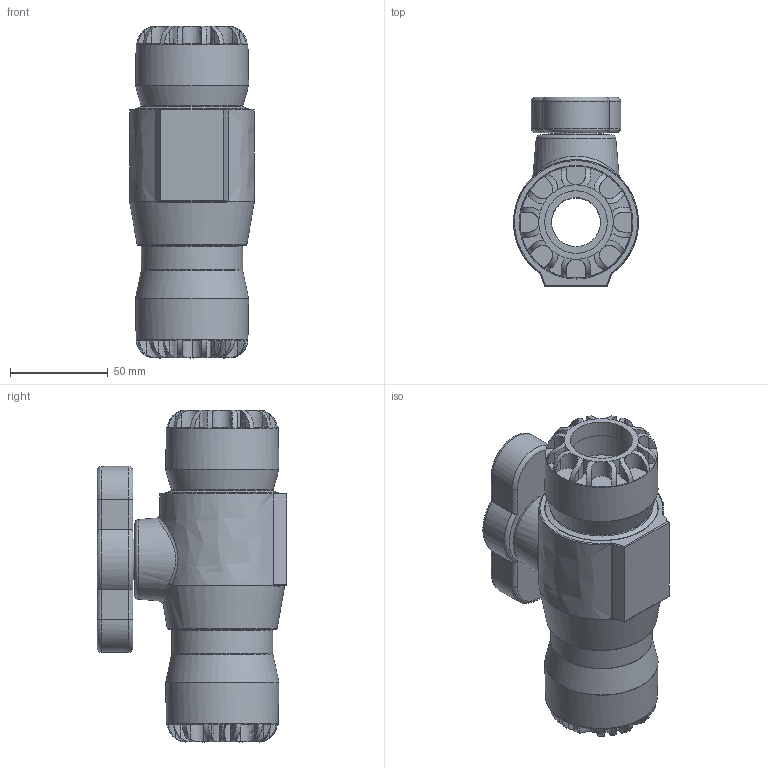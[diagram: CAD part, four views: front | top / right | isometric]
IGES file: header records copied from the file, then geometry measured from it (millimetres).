
Global section: file name: 03710S00032_03710SF0032; native system: Autodesk Inventor 2019; preprocessor: unknown; author: Lenora; date: 20220418.161949; units: millimetre
Bounding box: 64 x 97 x 170 mm (x, y, z)
Volume: 428484.8 mm3; surface area: 67124 mm2
Topology: 1 solids, 1 shells, 270 faces, 713 edges, 453 vertices
Faces by surface type: bspline 270
